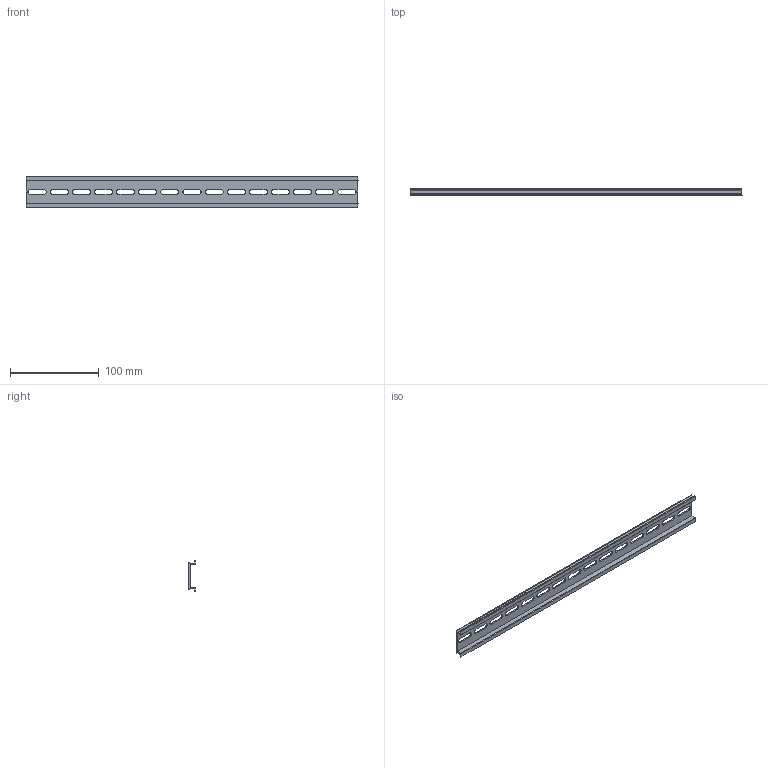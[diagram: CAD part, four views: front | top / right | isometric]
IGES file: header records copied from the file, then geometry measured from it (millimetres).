
Start section: ------------------------------------------------------------------------
Global section: file name: D:\ICADMX\tmp\trans3d_spg\CVICAD02.21224.DIN-RAIL375_7847.igs; native system: spGate; preprocessor: ver12.6.6; author: Unknown; organization: Unknown; date: 200901.142043; units: millimetre
Bounding box: 375 x 7.5 x 35 mm (x, y, z)
Volume: 26474.4 mm3; surface area: 35416.2 mm2
Topology: 1 solids, 1 shells, 80 faces, 234 edges, 156 vertices
Faces by surface type: bspline 80
